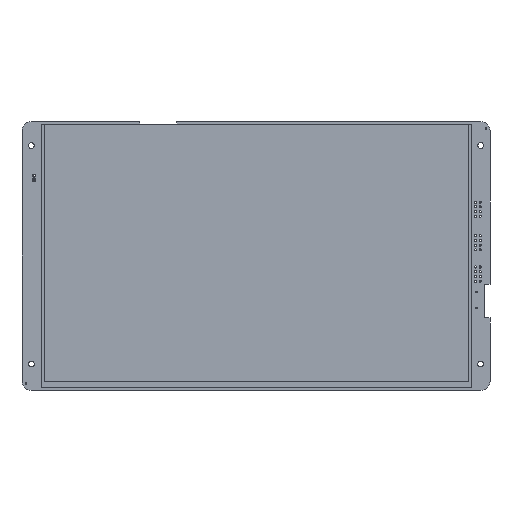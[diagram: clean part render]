
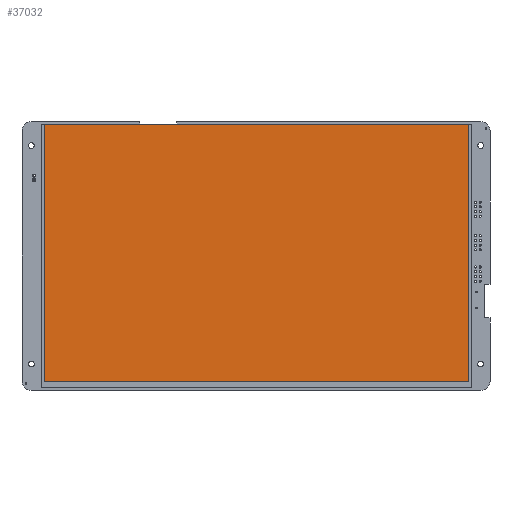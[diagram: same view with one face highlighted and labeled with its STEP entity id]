
A CAD part, front view. The second image highlights one B-rep face of the part: STEP entity #37032.
In plain terms, the highlighted planar face has unit normal (0, -1, 0).
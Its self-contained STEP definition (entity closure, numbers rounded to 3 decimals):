
#428=PLANE('',#39846);
#3892=FACE_OUTER_BOUND('',#6126,.T.);
#6126=EDGE_LOOP('',(#26862,#26863,#26864,#26865));
#8368=LINE('',#52718,#13074);
#8372=LINE('',#52726,#13078);
#8375=LINE('',#52732,#13081);
#8378=LINE('',#52737,#13084);
#13074=VECTOR('',#42749,10.);
#13078=VECTOR('',#42755,10.);
#13081=VECTOR('',#42760,10.);
#13084=VECTOR('',#42765,10.);
#18223=VERTEX_POINT('',#52716);
#18224=VERTEX_POINT('',#52717);
#18227=VERTEX_POINT('',#52725);
#18229=VERTEX_POINT('',#52731);
#21499=EDGE_CURVE('',#18223,#18224,#8368,.T.);
#21503=EDGE_CURVE('',#18227,#18223,#8372,.T.);
#21506=EDGE_CURVE('',#18229,#18227,#8375,.T.);
#21509=EDGE_CURVE('',#18224,#18229,#8378,.T.);
#26862=ORIENTED_EDGE('',*,*,#21509,.F.);
#26863=ORIENTED_EDGE('',*,*,#21499,.F.);
#26864=ORIENTED_EDGE('',*,*,#21503,.F.);
#26865=ORIENTED_EDGE('',*,*,#21506,.F.);
#37032=ADVANCED_FACE('',(#3892),#428,.F.);
#39846=AXIS2_PLACEMENT_3D('',#52740,#42769,#42770);
#42749=DIRECTION('',(1.,0.,0.));
#42755=DIRECTION('',(0.,0.,1.));
#42760=DIRECTION('',(-1.,0.,0.));
#42765=DIRECTION('',(0.,0.,-1.));
#42769=DIRECTION('center_axis',(0.,1.,0.));
#42770=DIRECTION('ref_axis',(0.,0.,1.));
#52716=CARTESIAN_POINT('',(0.,0.,0.));
#52717=CARTESIAN_POINT('',(234.,0.,0.));
#52718=CARTESIAN_POINT('',(0.,0.,0.));
#52725=CARTESIAN_POINT('',(0.,0.,-142.));
#52726=CARTESIAN_POINT('',(0.,0.,-142.));
#52731=CARTESIAN_POINT('',(234.,0.,-142.));
#52732=CARTESIAN_POINT('',(234.,0.,-142.));
#52737=CARTESIAN_POINT('',(234.,0.,0.));
#52740=CARTESIAN_POINT('Origin',(117.,0.,-71.));
